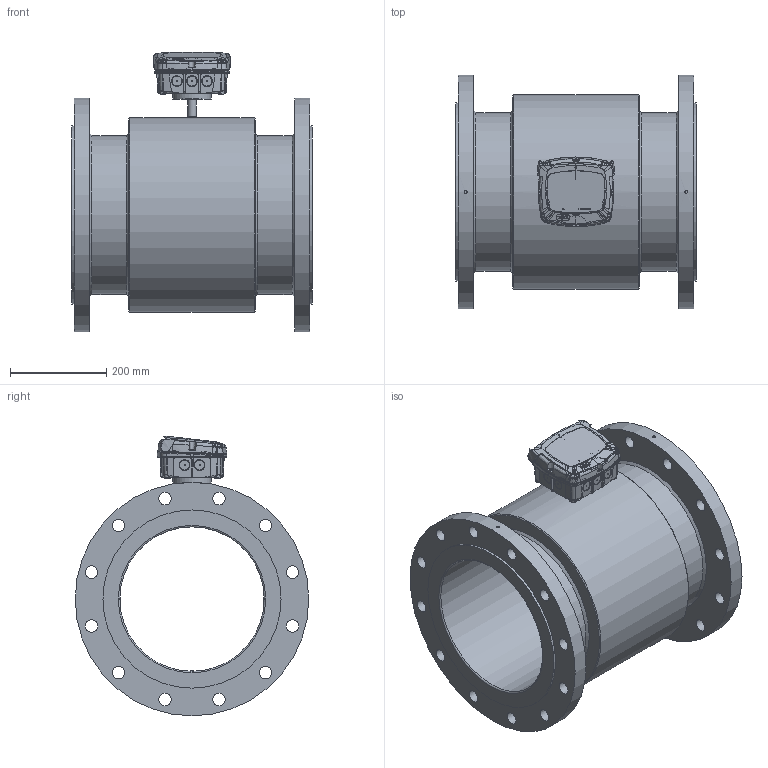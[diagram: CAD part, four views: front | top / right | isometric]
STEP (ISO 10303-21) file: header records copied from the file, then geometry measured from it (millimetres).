
FILE_DESCRIPTION((''),'2;1');
FILE_NAME('C:\Users\Claus\Dropbox\Projects 2011 - 2012\MJK Automation AS\DN 300 - ANSI B16,5.stp','2014-10-24T15:14:46',('Claus'),(''),'Autodesk Inventor 2013','Autodesk Inventor 2013','');
FILE_SCHEMA(('AUTOMOTIVE_DESIGN { 1 0 10303 214 1 1 1 1 }'));
Length unit declared in the file: millimetre
Products named in the file (7): DN 300 - ANSI B16,5; FC_MagFlux_assembly_r1; CH Bund ml; FC Top rev 06.04; CH 03.02; Electrode group DN15 - DN32
Assembly tree (8 placements, depth 3):
  DN 300 - ANSI B16,5
    DN 300 - ANSI B16,5
    FC_MagFlux_assembly_r1
      CH Bund ml
      FC Top rev 06.04
      CH 03.02
    Electrode group DN15 - DN32  x3
Bounding box: 500 x 485 x 580.84 mm (x, y, z)
Volume: 25178980.1 mm3; surface area: 1867949.4 mm2
Topology: 10 solids, 10 shells, 2943 faces, 8018 edges, 5219 vertices
Faces by surface type: bspline 1752, plane 810, cylinder 218, cone 123, torus 25, revolution 9, sphere 6
Full cylindrical faces by diameter (mm): 2.5 x3, 3 x6, 4 x1, 6 x2, 6.5 x4, 7.042 x4, 8 x3, 8.048 x4, 12.072 x4, 15 x1, 18 x1, 18.108 x1, 26 x24, 64 x1, 300 x1, 330 x2, 370 x2, 404 x1, 485 x2
Entity records: 234338 total; most frequent: CARTESIAN_POINT 171610, ORIENTED_EDGE 15528, DIRECTION 7805, EDGE_CURVE 7764, VERTEX_POINT 5157, EDGE_LOOP 3305, VECTOR 3112, LINE 3112
